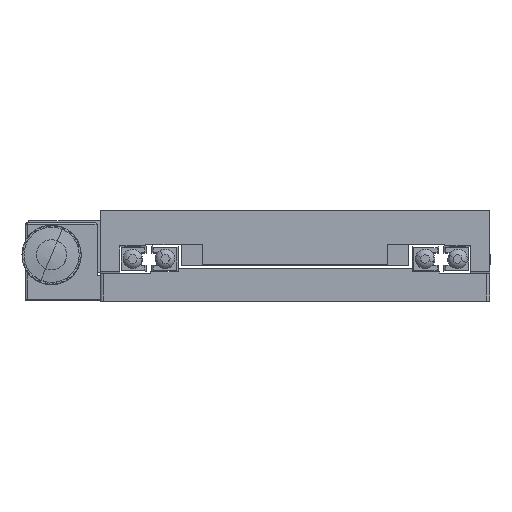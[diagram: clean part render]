
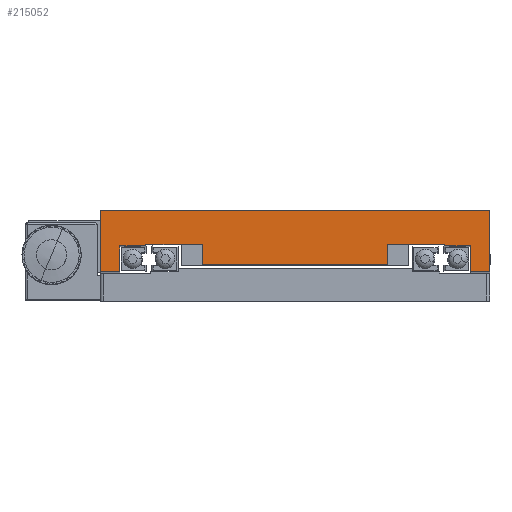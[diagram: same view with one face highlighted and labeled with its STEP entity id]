
A CAD part, top view. The second image highlights one B-rep face of the part: STEP entity #215052.
In plain terms, the highlighted planar face has unit normal (0, 0, 1).
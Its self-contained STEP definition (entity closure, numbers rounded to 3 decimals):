
#397 = FACE_OUTER_BOUND ( 'NONE', #107825, .T. ) ;
#4138 = CARTESIAN_POINT ( 'NONE',  ( 32.605, 2.805, 60. ) ) ;
#4151 = CARTESIAN_POINT ( 'NONE',  ( 24.605, 3.305, 60. ) ) ;
#4193 = CARTESIAN_POINT ( 'NONE',  ( 7.105, -2.895, 60. ) ) ;
#4230 = CARTESIAN_POINT ( 'NONE',  ( 38.605, 13.805, 60. ) ) ;
#4250 = CARTESIAN_POINT ( 'NONE',  ( 24.605, 2.805, 60. ) ) ;
#4286 = CARTESIAN_POINT ( 'NONE',  ( 32.605, -5.195, 60. ) ) ;
#4292 = CARTESIAN_POINT ( 'NONE',  ( 38.605, -5.195, 60. ) ) ;
#4294 = CARTESIAN_POINT ( 'NONE',  ( 7.105, 3.305, 60. ) ) ;
#9643 = CARTESIAN_POINT ( 'NONE',  ( -49.895, -2.895, 60. ) ) ;
#9683 = CARTESIAN_POINT ( 'NONE',  ( -49.895, 3.305, 60. ) ) ;
#9685 = CARTESIAN_POINT ( 'NONE',  ( -75.395, 2.805, 60. ) ) ;
#9710 = CARTESIAN_POINT ( 'NONE',  ( -81.395, 13.805, 60. ) ) ;
#9734 = CARTESIAN_POINT ( 'NONE',  ( -81.395, -5.195, 60. ) ) ;
#9740 = CARTESIAN_POINT ( 'NONE',  ( -67.395, 3.305, 60. ) ) ;
#9814 = CARTESIAN_POINT ( 'NONE',  ( -67.395, 2.805, 60. ) ) ;
#9874 = CARTESIAN_POINT ( 'NONE',  ( -75.395, -5.195, 60. ) ) ;
#12167 = DIRECTION ( 'NONE',  ( 1., 0., 0. ) ) ;
#12202 = CARTESIAN_POINT ( 'NONE',  ( -21.395, 4.305, 60. ) ) ;
#12205 = PLANE ( 'NONE',  #144895 ) ;
#12207 = DIRECTION ( 'NONE',  ( 0., 0., -1. ) ) ;
#22229 = DIRECTION ( 'NONE',  ( 1., 0., 0. ) ) ;
#22290 = CARTESIAN_POINT ( 'NONE',  ( 38.605, -5.195, 60. ) ) ;
#22524 = CARTESIAN_POINT ( 'NONE',  ( 32.605, 2.805, 60. ) ) ;
#22537 = DIRECTION ( 'NONE',  ( -1., 0., 0. ) ) ;
#22558 = DIRECTION ( 'NONE',  ( 0., 1., 0. ) ) ;
#22560 = CARTESIAN_POINT ( 'NONE',  ( 32.605, -5.195, 60. ) ) ;
#22608 = CARTESIAN_POINT ( 'NONE',  ( 38.605, 13.805, 60. ) ) ;
#22619 = DIRECTION ( 'NONE',  ( 0., 1., 0. ) ) ;
#22620 = CARTESIAN_POINT ( 'NONE',  ( 7.105, 4.305, 60. ) ) ;
#22631 = DIRECTION ( 'NONE',  ( 0., 1., 0. ) ) ;
#22670 = DIRECTION ( 'NONE',  ( 0., 1., 0. ) ) ;
#22696 = CARTESIAN_POINT ( 'NONE',  ( 24.605, 2.805, 60. ) ) ;
#22719 = CARTESIAN_POINT ( 'NONE',  ( -67.395, 2.805, 60. ) ) ;
#22720 = DIRECTION ( 'NONE',  ( -1., 0., 0. ) ) ;
#22727 = CARTESIAN_POINT ( 'NONE',  ( -67.395, 3.305, 60. ) ) ;
#22734 = DIRECTION ( 'NONE',  ( 0., -1., 0. ) ) ;
#22736 = DIRECTION ( 'NONE',  ( -1., 0., 0. ) ) ;
#22741 = CARTESIAN_POINT ( 'NONE',  ( -49.895, 4.305, 60. ) ) ;
#22742 = CARTESIAN_POINT ( 'NONE',  ( -75.395, 2.805, 60. ) ) ;
#22743 = DIRECTION ( 'NONE',  ( 0., -1., 0. ) ) ;
#22759 = DIRECTION ( 'NONE',  ( 0., -1., 0. ) ) ;
#22767 = CARTESIAN_POINT ( 'NONE',  ( -56.395, 3.305, 60. ) ) ;
#22808 = CARTESIAN_POINT ( 'NONE',  ( -81.395, 13.805, 60. ) ) ;
#22814 = DIRECTION ( 'NONE',  ( 0., -1., 0. ) ) ;
#22828 = CARTESIAN_POINT ( 'NONE',  ( 38.605, -5.195, 60. ) ) ;
#22854 = DIRECTION ( 'NONE',  ( 1., 0., 0. ) ) ;
#22951 = CARTESIAN_POINT ( 'NONE',  ( 13.605, -2.895, 60. ) ) ;
#22953 = DIRECTION ( 'NONE',  ( -1., 0., 0. ) ) ;
#22955 = DIRECTION ( 'NONE',  ( -1., 0., 0. ) ) ;
#22958 = CARTESIAN_POINT ( 'NONE',  ( 24.605, 3.305, 60. ) ) ;
#24460 = LINE ( 'NONE', #22290, #24527 ) ;
#24523 = LINE ( 'NONE', #22560, #24531 ) ;
#24527 = VECTOR ( 'NONE', #22229, 1000. ) ;
#24531 = VECTOR ( 'NONE', #22558, 1000. ) ;
#24535 = LINE ( 'NONE', #22524, #24543 ) ;
#24543 = VECTOR ( 'NONE', #22537, 1000. ) ;
#24598 = LINE ( 'NONE', #22608, #24636 ) ;
#24618 = VECTOR ( 'NONE', #22670, 1000. ) ;
#24636 = VECTOR ( 'NONE', #22619, 1000. ) ;
#24644 = VECTOR ( 'NONE', #22631, 1000. ) ;
#24680 = LINE ( 'NONE', #22620, #24644 ) ;
#24693 = LINE ( 'NONE', #22696, #24618 ) ;
#24705 = LINE ( 'NONE', #22742, #24740 ) ;
#24736 = LINE ( 'NONE', #22767, #24830 ) ;
#24740 = VECTOR ( 'NONE', #22759, 1000. ) ;
#24756 = VECTOR ( 'NONE', #22734, 1000. ) ;
#24762 = VECTOR ( 'NONE', #22720, 1000. ) ;
#24772 = LINE ( 'NONE', #22741, #24802 ) ;
#24784 = LINE ( 'NONE', #22719, #24762 ) ;
#24802 = VECTOR ( 'NONE', #22743, 1000. ) ;
#24805 = LINE ( 'NONE', #22727, #24756 ) ;
#24830 = VECTOR ( 'NONE', #22736, 1000. ) ;
#24846 = LINE ( 'NONE', #22828, #24908 ) ;
#24849 = VECTOR ( 'NONE', #22955, 1000. ) ;
#24886 = LINE ( 'NONE', #22808, #25029 ) ;
#24908 = VECTOR ( 'NONE', #22854, 1000. ) ;
#24926 = LINE ( 'NONE', #22958, #24849 ) ;
#25015 = LINE ( 'NONE', #22951, #25033 ) ;
#25029 = VECTOR ( 'NONE', #22814, 1000. ) ;
#25033 = VECTOR ( 'NONE', #22953, 1000. ) ;
#25133 = VECTOR ( 'NONE', #27236, 1000. ) ;
#25276 = LINE ( 'NONE', #27282, #25133 ) ;
#27236 = DIRECTION ( 'NONE',  ( -1., 0., 0. ) ) ;
#27282 = CARTESIAN_POINT ( 'NONE',  ( 38.605, 13.805, 60. ) ) ;
#51289 = VERTEX_POINT ( 'NONE', #4294 ) ;
#51311 = VERTEX_POINT ( 'NONE', #4193 ) ;
#51317 = VERTEX_POINT ( 'NONE', #4250 ) ;
#51322 = VERTEX_POINT ( 'NONE', #4151 ) ;
#51330 = VERTEX_POINT ( 'NONE', #4292 ) ;
#51337 = VERTEX_POINT ( 'NONE', #4230 ) ;
#51359 = VERTEX_POINT ( 'NONE', #4286 ) ;
#51384 = VERTEX_POINT ( 'NONE', #4138 ) ;
#62487 = VERTEX_POINT ( 'NONE', #9734 ) ;
#62491 = VERTEX_POINT ( 'NONE', #9683 ) ;
#62502 = VERTEX_POINT ( 'NONE', #9710 ) ;
#62514 = VERTEX_POINT ( 'NONE', #9685 ) ;
#62540 = VERTEX_POINT ( 'NONE', #9740 ) ;
#62553 = VERTEX_POINT ( 'NONE', #9643 ) ;
#62582 = VERTEX_POINT ( 'NONE', #9814 ) ;
#62587 = VERTEX_POINT ( 'NONE', #9874 ) ;
#107825 = EDGE_LOOP ( 'NONE', ( #191045, #190837, #191033, #191218, #190743, #190647, #191041, #191231, #191285, #191100, #190779, #190674, #191202, #190953, #190849, #191037 ) ) ;
#144895 = AXIS2_PLACEMENT_3D ( 'NONE', #12202, #12207, #12167 ) ;
#167456 = EDGE_CURVE ( 'NONE', #51359, #51330, #24460, .T. ) ;
#167526 = EDGE_CURVE ( 'NONE', #51359, #51384, #24523, .T. ) ;
#167534 = EDGE_CURVE ( 'NONE', #51384, #51317, #24535, .T. ) ;
#167581 = EDGE_CURVE ( 'NONE', #51330, #51337, #24598, .T. ) ;
#167626 = EDGE_CURVE ( 'NONE', #51311, #51289, #24680, .T. ) ;
#167640 = EDGE_CURVE ( 'NONE', #51317, #51322, #24693, .T. ) ;
#167679 = EDGE_CURVE ( 'NONE', #62582, #62514, #24784, .T. ) ;
#167695 = EDGE_CURVE ( 'NONE', #62540, #62582, #24805, .T. ) ;
#167721 = EDGE_CURVE ( 'NONE', #62491, #62540, #24736, .T. ) ;
#167734 = EDGE_CURVE ( 'NONE', #62491, #62553, #24772, .T. ) ;
#167737 = EDGE_CURVE ( 'NONE', #62514, #62587, #24705, .T. ) ;
#167780 = EDGE_CURVE ( 'NONE', #62502, #62487, #24886, .T. ) ;
#167795 = EDGE_CURVE ( 'NONE', #62487, #62587, #24846, .T. ) ;
#167929 = EDGE_CURVE ( 'NONE', #51311, #62553, #25015, .T. ) ;
#167932 = EDGE_CURVE ( 'NONE', #51322, #51289, #24926, .T. ) ;
#167952 = EDGE_CURVE ( 'NONE', #51337, #62502, #25276, .T. ) ;
#190647 = ORIENTED_EDGE ( 'NONE', *, *, #167640, .F. ) ;
#190674 = ORIENTED_EDGE ( 'NONE', *, *, #167780, .T. ) ;
#190743 = ORIENTED_EDGE ( 'NONE', *, *, #167932, .F. ) ;
#190779 = ORIENTED_EDGE ( 'NONE', *, *, #167952, .T. ) ;
#190837 = ORIENTED_EDGE ( 'NONE', *, *, #167734, .T. ) ;
#190849 = ORIENTED_EDGE ( 'NONE', *, *, #167679, .F. ) ;
#190953 = ORIENTED_EDGE ( 'NONE', *, *, #167737, .F. ) ;
#191033 = ORIENTED_EDGE ( 'NONE', *, *, #167929, .F. ) ;
#191037 = ORIENTED_EDGE ( 'NONE', *, *, #167695, .F. ) ;
#191041 = ORIENTED_EDGE ( 'NONE', *, *, #167534, .F. ) ;
#191045 = ORIENTED_EDGE ( 'NONE', *, *, #167721, .F. ) ;
#191100 = ORIENTED_EDGE ( 'NONE', *, *, #167581, .T. ) ;
#191202 = ORIENTED_EDGE ( 'NONE', *, *, #167795, .T. ) ;
#191218 = ORIENTED_EDGE ( 'NONE', *, *, #167626, .T. ) ;
#191231 = ORIENTED_EDGE ( 'NONE', *, *, #167526, .F. ) ;
#191285 = ORIENTED_EDGE ( 'NONE', *, *, #167456, .T. ) ;
#215052 = ADVANCED_FACE ( 'NONE', ( #397 ), #12205, .F. ) ;
